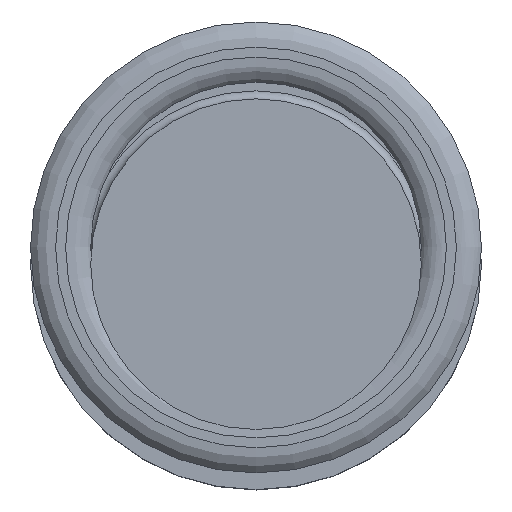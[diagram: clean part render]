
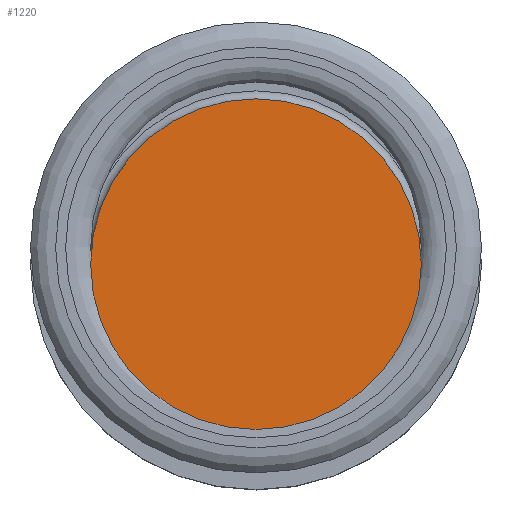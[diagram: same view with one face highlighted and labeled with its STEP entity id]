
A CAD part, top view. The second image highlights one B-rep face of the part: STEP entity #1220.
In plain terms, the highlighted planar face has unit normal (0, 0, 1).
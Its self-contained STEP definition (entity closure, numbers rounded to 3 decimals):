
#1220=ADVANCED_FACE('', (#1230), #1240, .T.);
#4500=AXIS2_PLACEMENT_3D('Ax2Pl3d', #4510, #4520, #4530);
#4540=AXIS2_PLACEMENT_3D('Ax2Pl3d', #4550, #4560, #4570);
#4510=CARTESIAN_POINT('HicPkt', (0.,0.,72.));
#19530=CARTESIAN_POINT('', (16.5,0.,72.));
#4550=CARTESIAN_POINT('HicPkt', (16.5,0.,72.));
#20020=CIRCLE('Circle', #4500, 16.5);
#4520=DIRECTION('Axis', (0.,0.,-1.));
#4530=DIRECTION('RefDirection', (-1.,0.,0.));
#4560=DIRECTION('Axis', (0.,0.,1.));
#4570=DIRECTION('RefDirection', (1.,0.,0.));
#21040=EDGE_CURVE('', #21050, #21050, #20020, .T.);
#22600=EDGE_LOOP('Edge_loop', (#22610));
#1230=FACE_OUTER_BOUND('Face_outer_bound', #22600, .T.);
#22610=ORIENTED_EDGE('', *, *, #21040, .F.);
#1240=PLANE('Plane', #4540);
#21050=VERTEX_POINT('', #19530);
